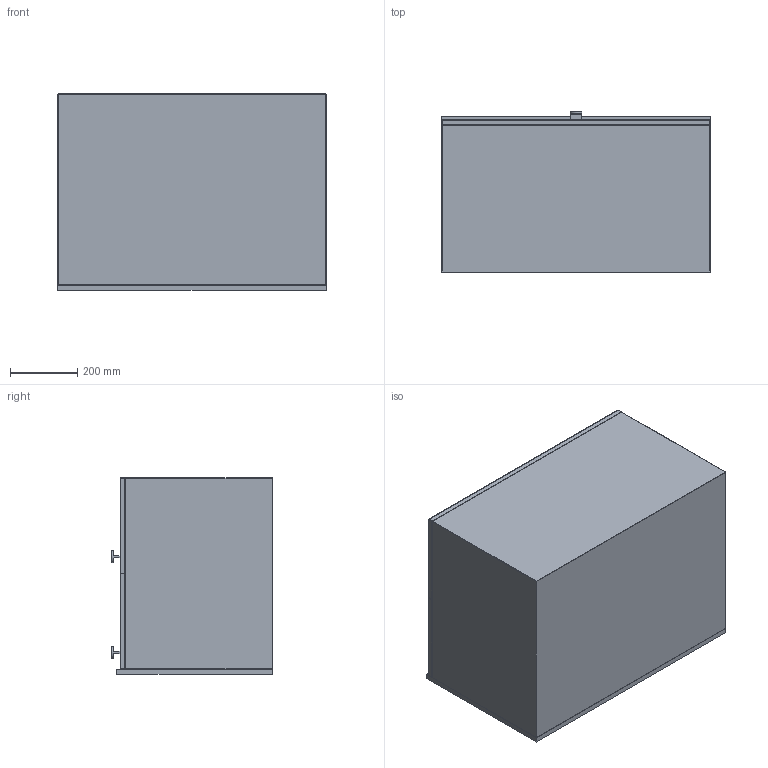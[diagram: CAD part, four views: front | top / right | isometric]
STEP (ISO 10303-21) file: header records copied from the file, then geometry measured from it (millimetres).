
FILE_DESCRIPTION (( 'STEP AP203' ), '1' );
FILE_NAME ('H3-80-Kommod-Shell-drawing.STEP', '2024-10-23T13:17:39', ( '' ), ( '' ), 'SwSTEP 2.0', 'SolidWorks 2024', '' );
FILE_SCHEMA (( 'CONFIG_CONTROL_DESIGN' ));
Length unit declared in the file: millimetre
Products named in the file (5): Stenskiva-800x465x15; Lucka-800x286x15; Kommod-skal-800x572x440; H3-80-Kommod-Shell-drawing; KNOB A2.01
Assembly tree (6 placements, depth 2):
  H3-80-Kommod-Shell-drawing
    Kommod-skal-800x572x440
    Lucka-800x286x15  x2
    Stenskiva-800x465x15
    KNOB A2.01  x2
Bounding box: 800 x 481 x 587 mm (x, y, z)
Volume: 213805216.3 mm3; surface area: 3887117.7 mm2
Topology: 6 solids, 6 shells, 110 faces, 234 edges, 116 vertices
Faces by surface type: cylinder 46, plane 40, sphere 24
Full cylindrical faces by diameter (mm): 4 x4, 35 x2
Entity records: 2357 total; most frequent: DIRECTION 344, CARTESIAN_POINT 344, ORIENTED_EDGE 262, AXIS2_PLACEMENT_3D 137, EDGE_CURVE 131, EDGE_LOOP 76, FACE_OUTER_BOUND 74, VERTEX_POINT 73
